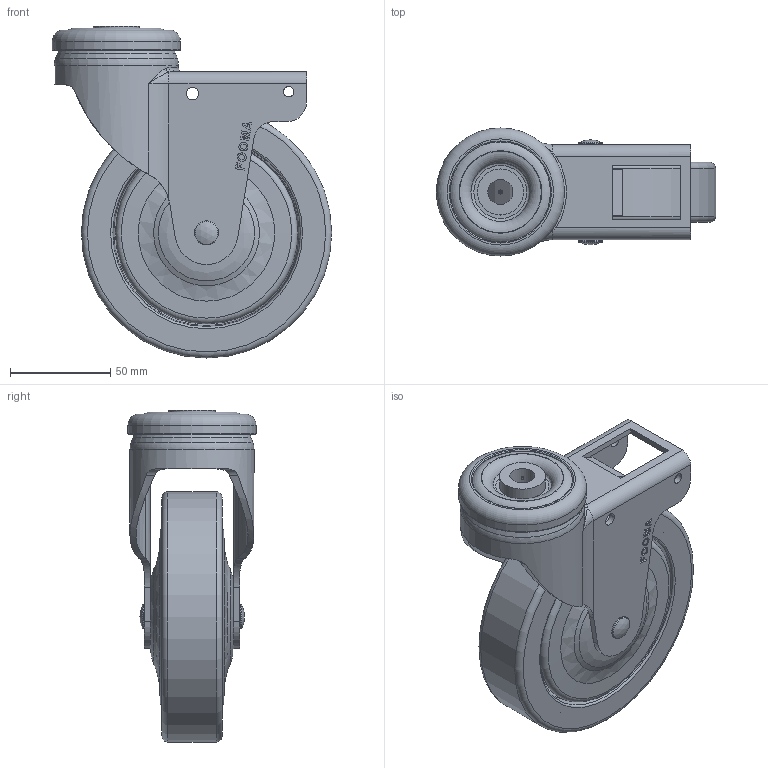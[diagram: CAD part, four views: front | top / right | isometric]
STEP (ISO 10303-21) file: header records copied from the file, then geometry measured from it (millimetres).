
FILE_DESCRIPTION((''),'2;1');
FILE_NAME('C:\Documents and Settings\Administrator\바탕 화면\3D STEP\P-SERIES\P-125-ASS\P-125-ASS.stp','2010-12-27T15:13:18',('Administrator'),(''),'Autodesk Inventor 2009','Autodesk Inventor 2009','');
FILE_SCHEMA(('AUTOMOTIVE_DESIGN { 1 0 10303 214 1 1 1 1 }'));
Length unit declared in the file: millimetre
Products named in the file (1): P-125-ASS
Bounding box: 139.5 x 64 x 165.8 mm (x, y, z)
Volume: 346711.2 mm3; surface area: 151984.6 mm2
Topology: 14 solids, 14 shells, 854 faces, 2115 edges, 1335 vertices
Faces by surface type: plane 374, cylinder 216, bspline 173, torus 56, cone 33, sphere 2
Full cylindrical faces by diameter (mm): 1 x1, 2 x2, 4.8 x1, 5.2 x2, 6.2 x2, 7.8 x1, 8 x2, 8.2 x2, 12 x8, 12.5 x1, 18 x5, 22 x5, 23 x1, 31 x1, 34 x1, 50 x1, 54 x2, 56 x1, 59 x1, 60 x1, 62 x1, 64 x1, 86 x2, 91 x2, 124.998 x1
Entity records: 37937 total; most frequent: CARTESIAN_POINT 19376, ORIENTED_EDGE 3786, DIRECTION 3502, EDGE_CURVE 1893, VERTEX_POINT 1285, AXIS2_PLACEMENT_3D 1279, EDGE_LOOP 1106, VECTOR 944
